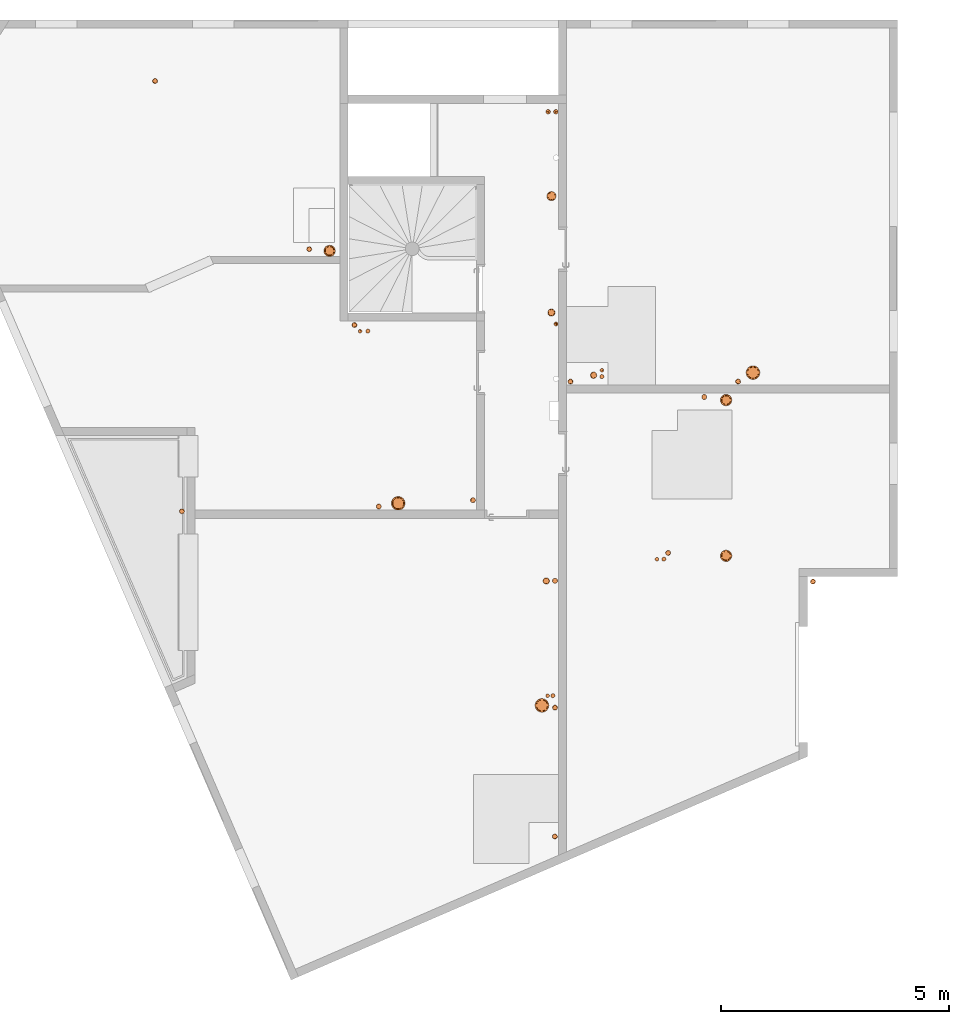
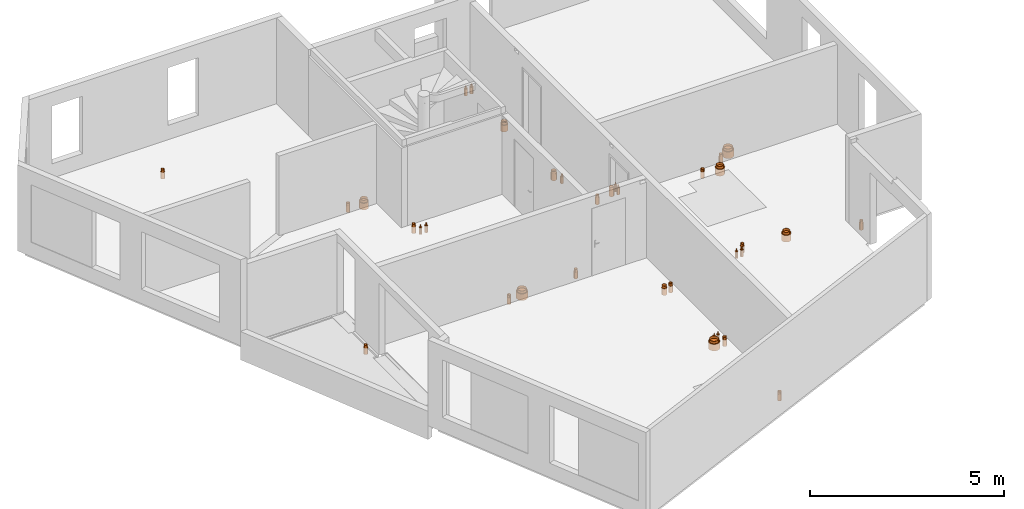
# One storey, part 20 of 24: 35 proxies.
"""IFC2X3 building model written with IfcOpenShell, lengths in centimetres."""

from ifc_helpers import new_model, entity, si_unit, converted_unit, derived_unit, direction, frame, frame_2d, origin, place, context, subcontext, project, spatial, circle, hollow_circle, extrude, source, transform, mapped, material, type_object, type_shapes, element, save


model = new_model("IFC2X3")

# Units and contexts
model_context = context("Model", 3, precision=0.001, world=origin(), true_north=direction((6.12303176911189e-17, 1.0)))
body_context = subcontext(model_context, "Body", "Model", "MODEL_VIEW")
ifc_project = project(units=[si_unit("LENGTHUNIT", "METRE", prefix="CENTI"), si_unit("AREAUNIT", "SQUARE_METRE"), si_unit("VOLUMEUNIT", "CUBIC_METRE"), converted_unit("PLANEANGLEUNIT", "DEGREE", entity("IfcRatioMeasure", 0.0174532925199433), si_unit("PLANEANGLEUNIT", "RADIAN"), dimensions=[0, 0, 0, 0, 0, 0, 0]), si_unit("MASSUNIT", "GRAM", prefix="KILO"), derived_unit("MASSDENSITYUNIT", [(si_unit("MASSUNIT", "GRAM", prefix="KILO"), 1), (si_unit("LENGTHUNIT", "METRE"), -3)]), si_unit("TIMEUNIT", "SECOND"), si_unit("FREQUENCYUNIT", "HERTZ"), si_unit("THERMODYNAMICTEMPERATUREUNIT", "DEGREE_CELSIUS"), derived_unit("THERMALTRANSMITTANCEUNIT", [(si_unit("MASSUNIT", "GRAM", prefix="KILO"), 1), (si_unit("THERMODYNAMICTEMPERATUREUNIT", "KELVIN"), -1), (si_unit("TIMEUNIT", "SECOND"), -3)]), derived_unit("VOLUMETRICFLOWRATEUNIT", [(si_unit("LENGTHUNIT", "METRE"), 3), (si_unit("TIMEUNIT", "SECOND"), -1)]), si_unit("ELECTRICCURRENTUNIT", "AMPERE"), si_unit("ELECTRICVOLTAGEUNIT", "VOLT"), si_unit("POWERUNIT", "WATT"), si_unit("FORCEUNIT", "NEWTON"), si_unit("ILLUMINANCEUNIT", "LUX"), si_unit("LUMINOUSFLUXUNIT", "LUMEN"), si_unit("LUMINOUSINTENSITYUNIT", "CANDELA"), derived_unit("USERDEFINED", [(si_unit("MASSUNIT", "GRAM", prefix="KILO"), -1), (si_unit("LENGTHUNIT", "METRE"), -2), (si_unit("TIMEUNIT", "SECOND"), 3), (si_unit("LUMINOUSFLUXUNIT", "LUMEN"), 1)]), derived_unit("LINEARVELOCITYUNIT", [(si_unit("LENGTHUNIT", "METRE"), 1), (si_unit("TIMEUNIT", "SECOND"), -1)]), si_unit("PRESSUREUNIT", "PASCAL"), derived_unit("USERDEFINED", [(si_unit("LENGTHUNIT", "METRE"), -2), (si_unit("MASSUNIT", "GRAM", prefix="KILO"), 1), (si_unit("TIMEUNIT", "SECOND"), -2)])], contexts=[model_context])

# Site, building, storey
site_placement = place(None, origin())
site = spatial("IfcSite", under=ifc_project, at=site_placement, Name="Default", CompositionType="ELEMENT")
building_placement = place(site_placement, origin())
building = spatial("IfcBuilding", under=site, at=building_placement, Name="CAGE 03", CompositionType="ELEMENT")
storey_placement = place(building_placement, frame((0.0, 0.0, 1150.0)))
storey = spatial("IfcBuildingStorey", under=building, at=storey_placement, Name="R+4", CompositionType="ELEMENT", Elevation=1150.0)

# Proxies
ifc_material_1 = material(Name="Conduit EP")
building_element_proxy_type_1 = type_object("IfcBuildingElementProxyType", Name="EP 161", PredefinedType="NOTDEFINED", material=ifc_material_1)
shared_shape_1 = source(origin(), body_context, "Body", "SweptSolid", [
    extrude(circle(Radius=10.0, at=frame_2d((0.0, -1.61554457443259e-14), x_axis=(1.0, 0.0))), frame((0.0, 0.0, -21.0)), (0.0, 0.0, 1.0), 21.0),
    extrude(hollow_circle(Radius=8.0, WallThickness=0.250000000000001, at=frame_2d((0.0, -1.29243565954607e-14), x_axis=(1.0, 0.0))), frame((0.0, 0.0, -21.0)), (0.0, 0.0, 1.0), 28.5),
])
type_shapes(building_element_proxy_type_1, [shared_shape_1])
proxy_1_placement = place(storey_placement, frame((4118.79282427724, 4907.15627952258, -4.46999754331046e-07)))
element("IfcBuildingElementProxy", 1, at=proxy_1_placement, inside=storey, type_object=building_element_proxy_type_1, material=ifc_material_1, Name="Galette - Résa - PVC3:EP 161", ObjectType="EP 161", context=body_context, shape_type="MappedRepresentation", body=[
    mapped(shared_shape_1, transform((0.0, 0.0, 0.0), scale=1.0)),
])
building_element_proxy_type_2 = type_object("IfcBuildingElementProxyType", Name="CFO160 P150", PredefinedType="NOTDEFINED", material=ifc_material_1)
shared_shape_2 = source(origin(), body_context, "Body", "SweptSolid", [
    extrude(circle(Radius=8.0, at=frame_2d((0.0, -1.29243565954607e-14), x_axis=(1.0, 0.0))), frame((0.0, 0.0, -21.0)), (0.0, 0.0, 1.0), 21.0),
    extrude(hollow_circle(Radius=7.0, WallThickness=0.25, at=frame_2d((0.0, -1.13088120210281e-14), x_axis=(1.0, 0.0))), frame((0.0, 0.0, -21.0)), (0.0, 0.0, 1.0), 28.5),
])
type_shapes(building_element_proxy_type_2, [shared_shape_2])
proxy_2_placement = place(storey_placement, frame((4118.7448452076, 4651.62070743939, -4.46999754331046e-07)))
element("IfcBuildingElementProxy", 2, at=proxy_2_placement, inside=storey, type_object=building_element_proxy_type_2, material=ifc_material_1, Name="Galette - Résa - PVC3:CFO160 P150", ObjectType="CFO160 P150", context=body_context, shape_type="MappedRepresentation", body=[
    mapped(shared_shape_2, transform((0.0, 0.0, 0.0), scale=1.0)),
])
building_element_proxy_type_3 = type_object("IfcBuildingElementProxyType", Name="EP 101", PredefinedType="NOTDEFINED", material=ifc_material_1)
shared_shape_3 = source(origin(), body_context, "Body", "SweptSolid", [
    extrude(circle(Radius=5.5, at=frame_2d((0.0, -8.88549515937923e-15), x_axis=(1.0, 0.0))), frame((0.0, 0.0, -21.0)), (0.0, 0.0, 1.0), 21.0),
    extrude(hollow_circle(Radius=5.0, WallThickness=0.25, at=frame_2d((0.0, -8.07772287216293e-15), x_axis=(1.0, 0.0))), frame((0.0, 0.0, -21.0)), (0.0, 0.0, 1.0), 28.5),
])
type_shapes(building_element_proxy_type_3, [shared_shape_3])
for number, where, name in (
    (3, (4692.5947420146, 4061.40163388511, -4.46999754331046e-07), "Galette - Résa - PVC3:EP 101"),
    (4, (3307.77724435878, 4215.66383157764, -4.46999754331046e-07), "Galette - Résa - PVC3:EP 101"),
    (5, (3249.08785498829, 5159.70173105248, -4.46999754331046e-07), "Galette - Résa - PVC3:EP 101"),
):
    element("IfcBuildingElementProxy", number, at=place(storey_placement, frame(where)), inside=storey, type_object=building_element_proxy_type_3, material=ifc_material_1, Name=name, ObjectType="EP 101", context=body_context, shape_type="MappedRepresentation", body=[
        mapped(shared_shape_3, transform((0.0, 0.0, 0.0), scale=1.0)),
    ])
ifc_material_2 = material(Name="Circuit CHF Aller")
building_element_proxy_type_4 = type_object("IfcBuildingElementProxyType", Name="CHF Aller 41", PredefinedType="NOTDEFINED", material=ifc_material_2)
shared_shape_4 = source(origin(), body_context, "Body", "SweptSolid", [
    extrude(circle(Radius=5.0, at=frame_2d((0.0, -8.07772287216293e-15), x_axis=(1.0, 0.0))), frame((0.0, 0.0, -21.0)), (0.0, 0.0, 1.0), 21.0),
    extrude(hollow_circle(Radius=2.0, WallThickness=0.4, at=frame_2d((0.0, -3.23108914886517e-15), x_axis=(1.0, 0.0))), frame((0.0, 0.0, -21.0)), (0.0, 0.0, 1.0), 28.5),
])
type_shapes(building_element_proxy_type_4, [shared_shape_4])
proxy_3_placement = place(storey_placement, frame((4111.59705654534, 5092.36066607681, -4.46999754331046e-07)))
element("IfcBuildingElementProxy", 6, at=proxy_3_placement, inside=storey, type_object=building_element_proxy_type_4, material=ifc_material_2, Name="Galette - Résa - PVC3:CHF Aller 41", ObjectType="CHF Aller 41", context=body_context, shape_type="MappedRepresentation", body=[
    mapped(shared_shape_4, transform((0.0, 0.0, 0.0), scale=1.0)),
])
ifc_material_3 = material(Name="Circuit CHF Retour")
building_element_proxy_type_5 = type_object("IfcBuildingElementProxyType", Name="CHF Retour 43", PredefinedType="NOTDEFINED", material=ifc_material_3)
shared_shape_5 = source(origin(), body_context, "Body", "SweptSolid", [
    extrude(circle(Radius=5.0, at=frame_2d((0.0, -8.07772287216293e-15), x_axis=(1.0, 0.0))), frame((0.0, 0.0, -21.0)), (0.0, 0.0, 1.0), 21.0),
    extrude(hollow_circle(Radius=2.0, WallThickness=0.4, at=frame_2d((0.0, -3.23108914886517e-15), x_axis=(1.0, 0.0))), frame((0.0, 0.0, -21.0)), (0.0, 0.0, 1.0), 28.5),
])
type_shapes(building_element_proxy_type_5, [shared_shape_5])
proxy_4_placement = place(storey_placement, frame((4128.59705654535, 5092.36066607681, -4.46999754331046e-07)))
element("IfcBuildingElementProxy", 7, at=proxy_4_placement, inside=storey, type_object=building_element_proxy_type_5, material=ifc_material_3, Name="Galette - Résa - PVC3:CHF Retour 43", ObjectType="CHF Retour 43", context=body_context, shape_type="MappedRepresentation", body=[
    mapped(shared_shape_5, transform((0.0, 0.0, 0.0), scale=1.0)),
])
ifc_material_4 = material(Name="Conduit EU")
building_element_proxy_type_6 = type_object("IfcBuildingElementProxyType", Name="CFO125 P110", PredefinedType="NOTDEFINED", material=ifc_material_4)
shared_shape_6 = source(origin(), body_context, "Body", "SweptSolid", [
    extrude(circle(Radius=5.5, at=frame_2d((0.0, -8.88549515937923e-15), x_axis=(1.0, 0.0))), frame((0.0, 0.0, -21.0)), (0.0, 0.0, 1.0), 21.0),
    extrude(hollow_circle(Radius=5.0, WallThickness=0.25, at=frame_2d((0.0, -8.07772287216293e-15), x_axis=(1.0, 0.0))), frame((0.0, 0.0, -21.0)), (0.0, 0.0, 1.0), 28.5),
])
type_shapes(building_element_proxy_type_6, [shared_shape_6])
for number, where, name in (
    (8, (4160.6569914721, 4500.34430239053, -4.46999754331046e-07), "Galette - Résa - PVC3:CFO125 P110"),
    (9, (4528.36982956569, 4500.40173587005, -4.46999754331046e-07), "Galette - Résa - PVC3:CFO125 P110"),
    (10, (4454.09460730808, 4466.43426444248, -4.46999754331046e-07), "Galette - Résa - PVC3:CFO125 P110"),
):
    element("IfcBuildingElementProxy", number, at=place(storey_placement, frame(where)), inside=storey, type_object=building_element_proxy_type_6, material=ifc_material_4, Name=name, ObjectType="CFO125 P110", context=body_context, shape_type="MappedRepresentation", body=[
        mapped(shared_shape_6, transform((0.0, 0.0, 0.0), scale=1.0)),
    ])
proxy_5_placement = place(storey_placement, frame((4374.87721447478, 4124.41535228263, -4.46999754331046e-07), z_axis=(0.0, 0.0, 1.0), x_axis=(0.0, -1.0, 0.0)))
element("IfcBuildingElementProxy", 11, at=proxy_5_placement, inside=storey, type_object=building_element_proxy_type_6, material=ifc_material_4, Name="Galette - Résa - PVC3:CFO125 P110", ObjectType="CFO125 P110", context=body_context, shape_type="MappedRepresentation", body=[
    mapped(shared_shape_6, transform((0.0, 0.0, 0.0), scale=1.0)),
])
for number, where, name in (
    (12, (4126.59491931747, 4063.18336532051, -4.46999754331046e-07), "Galette - Résa - PVC3:CFO125 P110"),
    (13, (4126.59495990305, 3784.86941010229, -4.46999754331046e-07), "Galette - Résa - PVC3:CFO125 P110"),
    (14, (4126.31850092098, 3502.00058207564, -4.46999754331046e-07), "Galette - Résa - PVC3:CFO125 P110"),
    (15, (3739.92742510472, 4226.17996560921, -4.46999754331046e-07), "Galette - Résa - PVC3:CFO125 P110"),
    (16, (3946.58141975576, 4239.9111842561, -4.46999754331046e-07), "Galette - Résa - PVC3:CFO125 P110"),
    (17, (3686.59725003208, 4624.40274501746, -4.46999754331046e-07), "Galette - Résa - PVC3:CFO125 P110"),
    (18, (3587.36582014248, 4790.66275776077, -4.46999754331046e-07), "Galette - Résa - PVC3:CFO125 P110"),
):
    element("IfcBuildingElementProxy", number, at=place(storey_placement, frame(where)), inside=storey, type_object=building_element_proxy_type_6, material=ifc_material_4, Name=name, ObjectType="CFO125 P110", context=body_context, shape_type="MappedRepresentation", body=[
        mapped(shared_shape_6, transform((0.0, 0.0, 0.0), scale=1.0)),
    ])
ifc_material_5 = material(Name="Conduit VMC")
building_element_proxy_type_7 = type_object("IfcBuildingElementProxyType", Name="CFO235 P210", PredefinedType="NOTDEFINED", material=ifc_material_5)
shared_shape_7 = source(origin(), body_context, "Body", "SweptSolid", [
    extrude(circle(Radius=12.5, at=frame_2d((0.0, -2.01943071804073e-14), x_axis=(1.0, 0.0))), frame((0.0, 0.0, -21.0)), (0.0, 0.0, 1.0), 21.0),
    extrude(hollow_circle(Radius=10.0, WallThickness=0.5, at=frame_2d((0.0, -1.61554457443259e-14), x_axis=(1.0, 0.0))), frame((0.0, 0.0, -21.0)), (0.0, 0.0, 1.0), 28.5),
])
type_shapes(building_element_proxy_type_7, [shared_shape_7])
for number, where, name in (
    (19, (4502.05872684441, 4459.65163388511, -4.46999754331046e-07), "Galette - Résa - PVC3:CFO235 P210"),
    (20, (4502.05872684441, 4117.90353136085, -4.46999754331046e-07), "Galette - Résa - PVC3:CFO235 P210"),
    (21, (3632.02185080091, 4786.95104453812, -4.46999754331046e-07), "Galette - Résa - PVC3:CFO235 P210"),
):
    element("IfcBuildingElementProxy", number, at=place(storey_placement, frame(where)), inside=storey, type_object=building_element_proxy_type_7, material=ifc_material_5, Name=name, ObjectType="CFO235 P210", context=body_context, shape_type="MappedRepresentation", body=[
        mapped(shared_shape_7, transform((0.0, 0.0, 0.0), scale=1.0)),
    ])
ifc_material_6 = material(Name="Circuit ECS Retour")
building_element_proxy_type_8 = type_object("IfcBuildingElementProxyType", Name="CFO100 P80", PredefinedType="NOTDEFINED", material=ifc_material_6)
shared_shape_8 = source(origin(), body_context, "Body", "SweptSolid", [
    extrude(circle(Radius=4.0, at=frame_2d((0.0, -6.46217829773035e-15), x_axis=(1.0, 0.0))), frame((0.0, 0.0, -21.0)), (0.0, 0.0, 1.0), 21.0),
    extrude(hollow_circle(Radius=1.0, WallThickness=0.0500000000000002, at=frame_2d((0.0, -1.61554457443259e-15), x_axis=(1.0, 0.0))), frame((0.0, 0.0, -21.0)), (0.0, 0.0, 1.0), 28.5),
])
type_shapes(building_element_proxy_type_8, [shared_shape_8])
for number, where, name in (
    (22, (4229.33361205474, 4525.12957820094, -4.46999754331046e-07), "Galette - Résa - PVC3:CFO100 P80"),
    (23, (4350.08327257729, 4110.509063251, -4.46999754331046e-07), "Galette - Résa - PVC3:CFO100 P80"),
):
    element("IfcBuildingElementProxy", number, at=place(storey_placement, frame(where)), inside=storey, type_object=building_element_proxy_type_8, material=ifc_material_6, Name=name, ObjectType="CFO100 P80", context=body_context, shape_type="MappedRepresentation", body=[
        mapped(shared_shape_8, transform((0.0, 0.0, 0.0), scale=1.0)),
    ])
proxy_6_placement = place(storey_placement, frame((4110.36801673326, 3810.96567488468, -4.46999754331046e-07), z_axis=(0.0, 0.0, 1.0), x_axis=(0.0, -1.0, 0.0)))
element("IfcBuildingElementProxy", 24, at=proxy_6_placement, inside=storey, type_object=building_element_proxy_type_8, material=ifc_material_6, Name="Galette - Résa - PVC3:CFO100 P80", ObjectType="CFO100 P80", context=body_context, shape_type="MappedRepresentation", body=[
    mapped(shared_shape_8, transform((0.0, 0.0, 0.0), scale=1.0)),
])
proxy_7_placement = place(storey_placement, frame((3698.87015670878, 4610.91348814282, -4.46999754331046e-07)))
element("IfcBuildingElementProxy", 25, at=proxy_7_placement, inside=storey, type_object=building_element_proxy_type_8, material=ifc_material_6, Name="Galette - Résa - PVC3:CFO100 P80", ObjectType="CFO100 P80", context=body_context, shape_type="MappedRepresentation", body=[
    mapped(shared_shape_8, transform((0.0, 0.0, 0.0), scale=1.0)),
])
ifc_material_7 = material(Name="Circuit ECS Aller")
building_element_proxy_type_9 = type_object("IfcBuildingElementProxyType", Name="CFO100 P90", PredefinedType="NOTDEFINED", material=ifc_material_7)
shared_shape_9 = source(origin(), body_context, "Body", "SweptSolid", [
    extrude(circle(Radius=4.5, at=frame_2d((0.0, -7.26995058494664e-15), x_axis=(1.0, 0.0))), frame((0.0, 0.0, -21.0)), (0.0, 0.0, 1.0), 21.0),
    extrude(hollow_circle(Radius=1.6, WallThickness=0.05, at=frame_2d((0.0, -2.58487131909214e-15), x_axis=(1.0, 0.0))), frame((0.0, 0.0, -21.0)), (0.0, 0.0, 1.0), 28.5),
])
type_shapes(building_element_proxy_type_9, [shared_shape_9])
for number, where, name in (
    (26, (4229.33361205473, 4511.12957820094, -4.46999754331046e-07), "Galette - Résa - PVC3:CFO100 P90"),
    (27, (4365.58327257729, 4110.509063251, -4.46999754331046e-07), "Galette - Résa - PVC3:CFO100 P90"),
):
    element("IfcBuildingElementProxy", number, at=place(storey_placement, frame(where)), inside=storey, type_object=building_element_proxy_type_9, material=ifc_material_7, Name=name, ObjectType="CFO100 P90", context=body_context, shape_type="MappedRepresentation", body=[
        mapped(shared_shape_9, transform((0.0, 0.0, 0.0), scale=1.0)),
    ])
proxy_8_placement = place(storey_placement, frame((4121.86801673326, 3810.96567488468, -4.46999754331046e-07), z_axis=(0.0, 0.0, 1.0), x_axis=(0.0, -1.0, 0.0)))
element("IfcBuildingElementProxy", 28, at=proxy_8_placement, inside=storey, type_object=building_element_proxy_type_9, material=ifc_material_7, Name="Galette - Résa - PVC3:CFO100 P90", ObjectType="CFO100 P90", context=body_context, shape_type="MappedRepresentation", body=[
    mapped(shared_shape_9, transform((0.0, 0.0, 0.0), scale=1.0)),
])
proxy_9_placement = place(storey_placement, frame((3715.82551820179, 4610.91348814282, -4.46999754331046e-07)))
element("IfcBuildingElementProxy", 29, at=proxy_9_placement, inside=storey, type_object=building_element_proxy_type_9, material=ifc_material_7, Name="Galette - Résa - PVC3:CFO100 P90", ObjectType="CFO100 P90", context=body_context, shape_type="MappedRepresentation", body=[
    mapped(shared_shape_9, transform((0.0, 0.0, 0.0), scale=1.0)),
])
building_element_proxy_type_10 = type_object("IfcBuildingElementProxyType", Name="CFO285 P260", PredefinedType="NOTDEFINED", material=ifc_material_5)
shared_shape_10 = source(origin(), body_context, "Body", "SweptSolid", [
    extrude(circle(Radius=15.0, at=frame_2d((0.0, -2.42331686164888e-14), x_axis=(1.0, 0.0))), frame((0.0, 0.0, -21.0)), (0.0, 0.0, 1.0), 21.0),
    extrude(hollow_circle(Radius=12.5, WallThickness=0.499999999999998, at=frame_2d((0.0, -2.01943071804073e-14), x_axis=(1.0, 0.0))), frame((0.0, 0.0, -21.0)), (0.0, 0.0, 1.0), 28.5),
])
type_shapes(building_element_proxy_type_10, [shared_shape_10])
for number, where, name in (
    (30, (4561.07129081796, 4519.93412675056, -4.46999754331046e-07), "Galette - Résa - PVC3:CFO285 P260"),
    (31, (4097.97968134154, 3789.61941010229, -4.46999754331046e-07), "Galette - Résa - PVC3:CFO285 P260"),
    (32, (3782.56423441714, 4233.21735522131, -4.46999754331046e-07), "Galette - Résa - PVC3:CFO285 P260"),
):
    element("IfcBuildingElementProxy", number, at=place(storey_placement, frame(where)), inside=storey, type_object=building_element_proxy_type_10, material=ifc_material_5, Name=name, ObjectType="CFO285 P260", context=body_context, shape_type="MappedRepresentation", body=[
        mapped(shared_shape_10, transform((0.0, 0.0, 0.0), scale=1.0)),
    ])
building_element_proxy_type_11 = type_object("IfcBuildingElementProxyType", Name="CFO140 P135", PredefinedType="NOTDEFINED", material=ifc_material_5)
shared_shape_11 = source(origin(), body_context, "Body", "SweptSolid", [
    extrude(circle(Radius=7.0, at=frame_2d((0.0, -1.13088120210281e-14), x_axis=(1.0, 0.0))), frame((0.0, 0.0, -21.0)), (0.0, 0.0, 1.0), 21.0),
    extrude(hollow_circle(Radius=6.25, WallThickness=0.25, at=frame_2d((0.0, -1.00971535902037e-14), x_axis=(1.0, 0.0))), frame((0.0, 0.0, -21.0)), (0.0, 0.0, 1.0), 28.5),
])
type_shapes(building_element_proxy_type_11, [shared_shape_11])
for number, where, name in (
    (33, (4211.2793522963, 4514.26405606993, -4.46999754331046e-07), "Galette - Résa - PVC3:CFO140 P135"),
    (34, (4107.50728480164, 4062.77600289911, -4.46999754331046e-07), "Galette - Résa - PVC3:CFO140 P135"),
):
    element("IfcBuildingElementProxy", number, at=place(storey_placement, frame(where)), inside=storey, type_object=building_element_proxy_type_11, material=ifc_material_5, Name=name, ObjectType="CFO140 P135", context=body_context, shape_type="MappedRepresentation", body=[
        mapped(shared_shape_11, transform((0.0, 0.0, 0.0), scale=1.0)),
    ])
ifc_material_8 = material(Name="Circuit EF")
building_element_proxy_type_12 = type_object("IfcBuildingElementProxyType", Name="EF 41", PredefinedType="NOTDEFINED", material=ifc_material_8)
shared_shape_12 = source(origin(), body_context, "Body", "SweptSolid", [
    extrude(circle(Radius=4.5, at=frame_2d((0.0, -7.26995058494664e-15), x_axis=(1.0, 0.0))), frame((0.0, 0.0, -21.0)), (0.0, 0.0, 1.0), 21.0),
    extrude(hollow_circle(Radius=2.2, WallThickness=0.449999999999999, at=frame_2d((0.0, -3.55419806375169e-15), x_axis=(1.0, 0.0))), frame((0.0, 0.0, -21.0)), (0.0, 0.0, 1.0), 28.5),
])
type_shapes(building_element_proxy_type_12, [shared_shape_12])
proxy_10_placement = place(storey_placement, frame((4128.59495990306, 4626.63859506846, -4.46999754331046e-07)))
element("IfcBuildingElementProxy", 35, at=proxy_10_placement, inside=storey, type_object=building_element_proxy_type_12, material=ifc_material_8, Name="Galette - Résa - PVC3:EF 41", ObjectType="EF 41", context=body_context, shape_type="MappedRepresentation", body=[
    mapped(shared_shape_12, transform((0.0, 0.0, 0.0), scale=1.0)),
])

save(model, "model.ifc")
